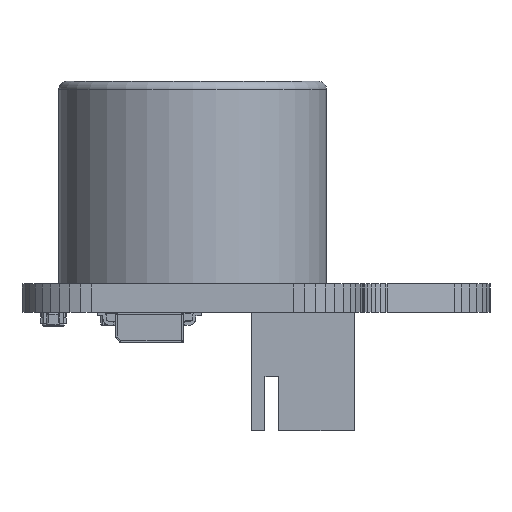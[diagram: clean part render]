
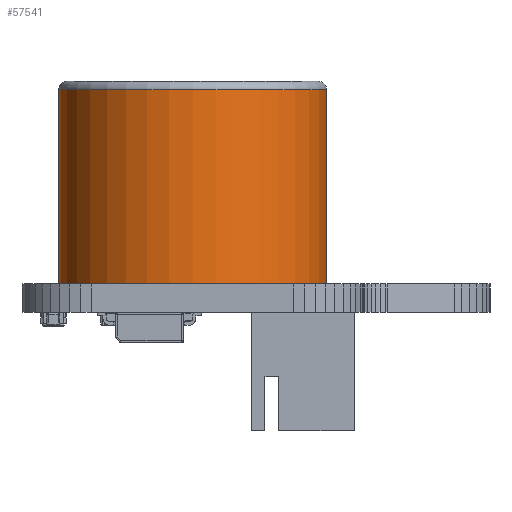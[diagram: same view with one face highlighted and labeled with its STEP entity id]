
A CAD part, left-side view. The second image highlights one B-rep face of the part: STEP entity #57541.
In plain terms, the highlighted cylindrical face has radius 7.94 mm (diameter 15.88 mm), a full revolution.
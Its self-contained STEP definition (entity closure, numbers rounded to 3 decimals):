
#57280 = TOROIDAL_SURFACE('',#57281,7.44,0.5);
#57281 = AXIS2_PLACEMENT_3D('',#57282,#57283,#57284);
#57282 = CARTESIAN_POINT('',(0.,0.,
    0.));
#57283 = DIRECTION('',(0.,-1.,0.));
#57284 = DIRECTION('',(1.,0.,0.));
#57331 = VERTEX_POINT('',#57332);
#57332 = CARTESIAN_POINT('',(7.94,0.,0.
    ));
#57357 = EDGE_CURVE('',#57358,#57331,#57360,.T.);
#57358 = VERTEX_POINT('',#57359);
#57359 = CARTESIAN_POINT('',(-7.94,0.,0.));
#57360 = SURFACE_CURVE('',#57361,(#57366,#57373),.PCURVE_S1.);
#57361 = CIRCLE('',#57362,7.94);
#57362 = AXIS2_PLACEMENT_3D('',#57363,#57364,#57365);
#57363 = CARTESIAN_POINT('',(0.,0.,
    0.));
#57364 = DIRECTION('',(0.,-1.,0.));
#57365 = DIRECTION('',(1.,0.,0.));
#57366 = PCURVE('',#57280,#57367);
#57367 = DEFINITIONAL_REPRESENTATION('',(#57368),#57372);
#57368 = LINE('',#57369,#57370);
#57369 = CARTESIAN_POINT('',(0.,6.283));
#57370 = VECTOR('',#57371,1.);
#57371 = DIRECTION('',(1.,0.));
#57372 = ( GEOMETRIC_REPRESENTATION_CONTEXT(2) 
PARAMETRIC_REPRESENTATION_CONTEXT() REPRESENTATION_CONTEXT('2D SPACE',''
  ) );
#57373 = PCURVE('',#57374,#57379);
#57374 = CYLINDRICAL_SURFACE('',#57375,7.94);
#57375 = AXIS2_PLACEMENT_3D('',#57376,#57377,#57378);
#57376 = CARTESIAN_POINT('',(0.,0.,0.));
#57377 = DIRECTION('',(0.,1.,0.));
#57378 = DIRECTION('',(-1.,0.,0.));
#57379 = DEFINITIONAL_REPRESENTATION('',(#57380),#57383);
#57380 = B_SPLINE_CURVE_WITH_KNOTS('',1,(#57381,#57382),.UNSPECIFIED.,
  .F.,.F.,(2,2),(0.,6.283),.PIECEWISE_BEZIER_KNOTS.);
#57381 = CARTESIAN_POINT('',(9.425,0.));
#57382 = CARTESIAN_POINT('',(3.142,0.));
#57383 = ( GEOMETRIC_REPRESENTATION_CONTEXT(2) 
PARAMETRIC_REPRESENTATION_CONTEXT() REPRESENTATION_CONTEXT('2D SPACE',''
  ) );
#57385 = EDGE_CURVE('',#57331,#57358,#57386,.T.);
#57386 = SURFACE_CURVE('',#57387,(#57392,#57399),.PCURVE_S1.);
#57387 = CIRCLE('',#57388,7.94);
#57388 = AXIS2_PLACEMENT_3D('',#57389,#57390,#57391);
#57389 = CARTESIAN_POINT('',(0.,0.,
    0.));
#57390 = DIRECTION('',(0.,-1.,0.));
#57391 = DIRECTION('',(1.,0.,0.));
#57392 = PCURVE('',#57280,#57393);
#57393 = DEFINITIONAL_REPRESENTATION('',(#57394),#57398);
#57394 = LINE('',#57395,#57396);
#57395 = CARTESIAN_POINT('',(0.,6.283));
#57396 = VECTOR('',#57397,1.);
#57397 = DIRECTION('',(1.,0.));
#57398 = ( GEOMETRIC_REPRESENTATION_CONTEXT(2) 
PARAMETRIC_REPRESENTATION_CONTEXT() REPRESENTATION_CONTEXT('2D SPACE',''
  ) );
#57399 = PCURVE('',#57374,#57400);
#57400 = DEFINITIONAL_REPRESENTATION('',(#57401),#57404);
#57401 = B_SPLINE_CURVE_WITH_KNOTS('',1,(#57402,#57403),.UNSPECIFIED.,
  .F.,.F.,(2,2),(0.,6.283),.PIECEWISE_BEZIER_KNOTS.);
#57402 = CARTESIAN_POINT('',(3.142,0.));
#57403 = CARTESIAN_POINT('',(-3.142,0.));
#57404 = ( GEOMETRIC_REPRESENTATION_CONTEXT(2) 
PARAMETRIC_REPRESENTATION_CONTEXT() REPRESENTATION_CONTEXT('2D SPACE',''
  ) );
#57541 = ADVANCED_FACE('',(#57542),#57374,.T.);
#57542 = FACE_BOUND('',#57543,.T.);
#57543 = EDGE_LOOP('',(#57544,#57572,#57592,#57593,#57594));
#57544 = ORIENTED_EDGE('',*,*,#57545,.T.);
#57545 = EDGE_CURVE('',#57546,#57546,#57548,.T.);
#57546 = VERTEX_POINT('',#57547);
#57547 = CARTESIAN_POINT('',(-7.94,-11.5,0.));
#57548 = SURFACE_CURVE('',#57549,(#57554,#57560),.PCURVE_S1.);
#57549 = CIRCLE('',#57550,7.94);
#57550 = AXIS2_PLACEMENT_3D('',#57551,#57552,#57553);
#57551 = CARTESIAN_POINT('',(0.,-11.5,0.));
#57552 = DIRECTION('',(0.,1.,0.));
#57553 = DIRECTION('',(-1.,0.,0.));
#57554 = PCURVE('',#57374,#57555);
#57555 = DEFINITIONAL_REPRESENTATION('',(#57556),#57559);
#57556 = B_SPLINE_CURVE_WITH_KNOTS('',1,(#57557,#57558),.UNSPECIFIED.,
  .F.,.F.,(2,2),(0.,6.283),.PIECEWISE_BEZIER_KNOTS.);
#57557 = CARTESIAN_POINT('',(0.,-11.5));
#57558 = CARTESIAN_POINT('',(6.283,-11.5));
#57559 = ( GEOMETRIC_REPRESENTATION_CONTEXT(2) 
PARAMETRIC_REPRESENTATION_CONTEXT() REPRESENTATION_CONTEXT('2D SPACE',''
  ) );
#57560 = PCURVE('',#57561,#57566);
#57561 = PLANE('',#57562);
#57562 = AXIS2_PLACEMENT_3D('',#57563,#57564,#57565);
#57563 = CARTESIAN_POINT('',(0.,-11.5,0.));
#57564 = DIRECTION('',(0.,1.,0.));
#57565 = DIRECTION('',(-1.,0.,0.));
#57566 = DEFINITIONAL_REPRESENTATION('',(#57567),#57571);
#57567 = CIRCLE('',#57568,7.94);
#57568 = AXIS2_PLACEMENT_2D('',#57569,#57570);
#57569 = CARTESIAN_POINT('',(0.,0.));
#57570 = DIRECTION('',(1.,0.));
#57571 = ( GEOMETRIC_REPRESENTATION_CONTEXT(2) 
PARAMETRIC_REPRESENTATION_CONTEXT() REPRESENTATION_CONTEXT('2D SPACE',''
  ) );
#57572 = ORIENTED_EDGE('',*,*,#57573,.T.);
#57573 = EDGE_CURVE('',#57546,#57358,#57574,.T.);
#57574 = SEAM_CURVE('',#57575,(#57578,#57585),.PCURVE_S1.);
#57575 = B_SPLINE_CURVE_WITH_KNOTS('',1,(#57576,#57577),.UNSPECIFIED.,
  .F.,.F.,(2,2),(-11.5,0.),.PIECEWISE_BEZIER_KNOTS.);
#57576 = CARTESIAN_POINT('',(-7.94,-11.5,0.));
#57577 = CARTESIAN_POINT('',(-7.94,0.,0.));
#57578 = PCURVE('',#57374,#57579);
#57579 = DEFINITIONAL_REPRESENTATION('',(#57580),#57584);
#57580 = LINE('',#57581,#57582);
#57581 = CARTESIAN_POINT('',(6.283,0.));
#57582 = VECTOR('',#57583,1.);
#57583 = DIRECTION('',(0.,1.));
#57584 = ( GEOMETRIC_REPRESENTATION_CONTEXT(2) 
PARAMETRIC_REPRESENTATION_CONTEXT() REPRESENTATION_CONTEXT('2D SPACE',''
  ) );
#57585 = PCURVE('',#57374,#57586);
#57586 = DEFINITIONAL_REPRESENTATION('',(#57587),#57591);
#57587 = LINE('',#57588,#57589);
#57588 = CARTESIAN_POINT('',(0.,0.));
#57589 = VECTOR('',#57590,1.);
#57590 = DIRECTION('',(0.,1.));
#57591 = ( GEOMETRIC_REPRESENTATION_CONTEXT(2) 
PARAMETRIC_REPRESENTATION_CONTEXT() REPRESENTATION_CONTEXT('2D SPACE',''
  ) );
#57592 = ORIENTED_EDGE('',*,*,#57357,.T.);
#57593 = ORIENTED_EDGE('',*,*,#57385,.T.);
#57594 = ORIENTED_EDGE('',*,*,#57573,.F.);
